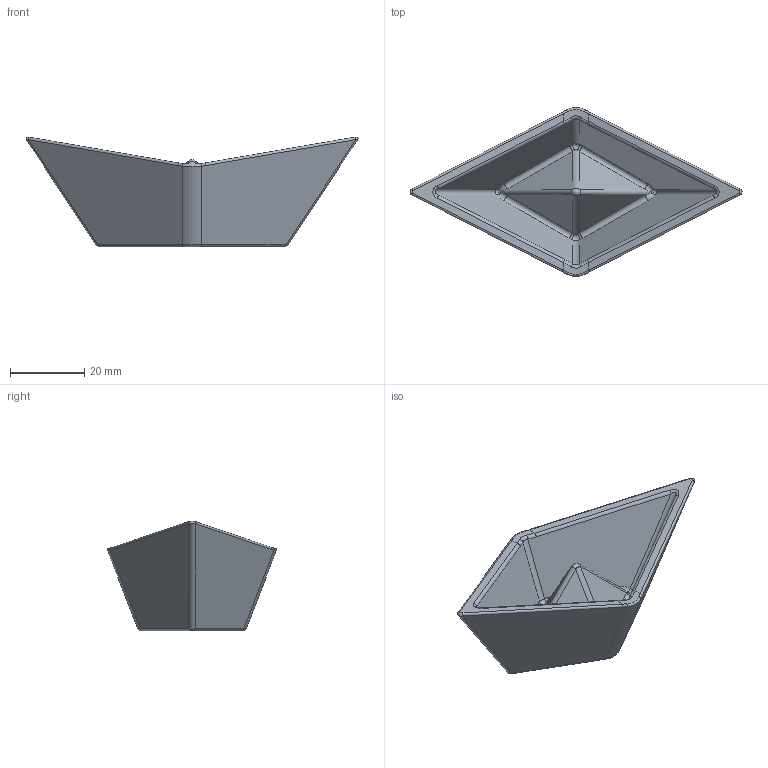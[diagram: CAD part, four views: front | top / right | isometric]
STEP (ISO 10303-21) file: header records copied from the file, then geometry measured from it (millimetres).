
FILE_DESCRIPTION(/* description */ (''),/* implementation_level */ '2;1');
FILE_NAME(/* name */ 'Schiff.stp',/* time_stamp */ '2014-06-03T16:03:41+02:00',/* author */ (''),/* organization */ (''),/* preprocessor_version */ 'ST-DEVELOPER v14',/* originating_system */ 'SIEMENS PLM Software NX 8.0',/* authorisation */ '');
FILE_SCHEMA (('CONFIG_CONTROL_DESIGN'));
Length unit declared in the file: millimetre
Products named in the file (1): Schiff
Bounding box: 89.48 x 45.49 x 29.63 mm (x, y, z)
Volume: 15112.3 mm3; surface area: 10099.2 mm2
Topology: 1 solids, 1 shells, 95 faces, 215 edges, 119 vertices
Faces by surface type: cylinder 38, bspline 34, plane 19, sphere 4
Entity records: 3122 total; most frequent: CARTESIAN_POINT 1040, DIRECTION 440, ORIENTED_EDGE 416, EDGE_CURVE 208, AXIS2_PLACEMENT_3D 182, VERTEX_POINT 116, EDGE_LOOP 96, ADVANCED_FACE 95
